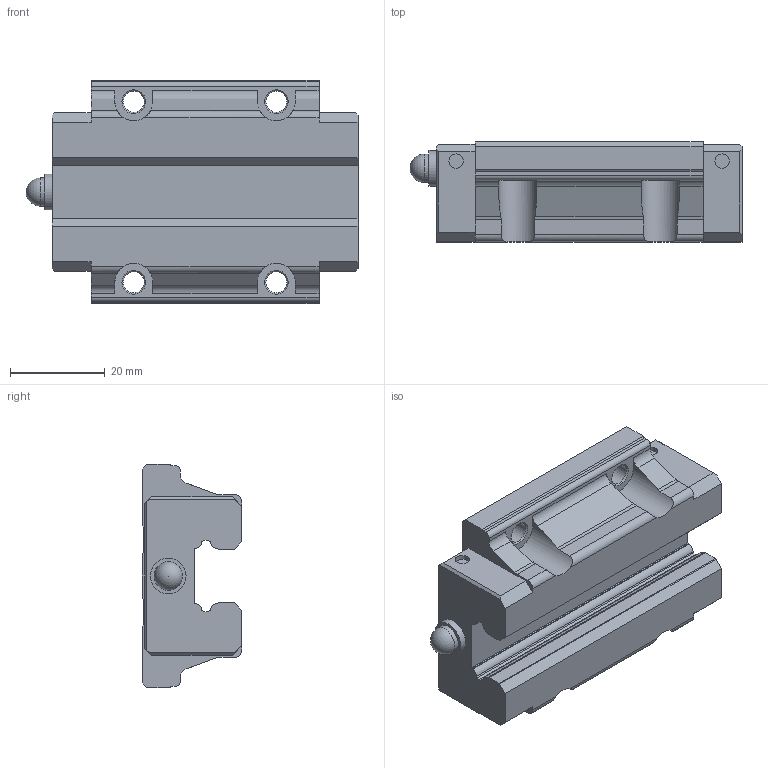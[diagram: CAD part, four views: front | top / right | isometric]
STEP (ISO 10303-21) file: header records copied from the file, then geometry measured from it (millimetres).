
FILE_DESCRIPTION(/* description */ ('STEP AP214'),/* implementation_level */ '2;1');
FILE_NAME(/* name */ 'SHS15C1SS(GK) BLOCK(PB1021B1)',/* time_stamp */ '2023-05-15T17:42:35+02:00',/* author */ ('License CC BY-ND 4.0'),/* organization */ ('CADENAS'),/* preprocessor_version */ 'ST-DEVELOPER v19.3',/* originating_system */ 'PARTsolutions',/* authorisation */ ' ');
FILE_SCHEMA (('AUTOMOTIVE_DESIGN {1 0 10303 214 3 1 1}'));
Length unit declared in the file: millimetre
Products named in the file (3): SHS15C1SS(GK) BLOCK(PB1021B1); PB1021B-SHS_grease_nipple_joint; SHS15CSSPB1021B1 Slide25-55
Assembly tree (2 placements, depth 2):
  SHS15C1SS(GK) BLOCK(PB1021B1)
    PB1021B-SHS_grease_nipple_joint
    SHS15CSSPB1021B1 Slide25-55
Bounding box: 69.9 x 21 x 47 mm (x, y, z)
Volume: 42052.3 mm3; surface area: 11548.4 mm2
Topology: 2 solids, 2 shells, 151 faces, 420 edges, 280 vertices
Faces by surface type: plane 87, cylinder 55, cone 8, sphere 1
Full cylindrical faces by diameter (mm): 3 x4, 4 x3, 4.4 x4, 6 x1, 7.5 x1
Entity records: 4767 total; most frequent: CARTESIAN_POINT 876, DIRECTION 790, ORIENTED_EDGE 776, EDGE_CURVE 388, VERTEX_POINT 270, AXIS2_PLACEMENT_3D 264, LINE 262, VECTOR 262
